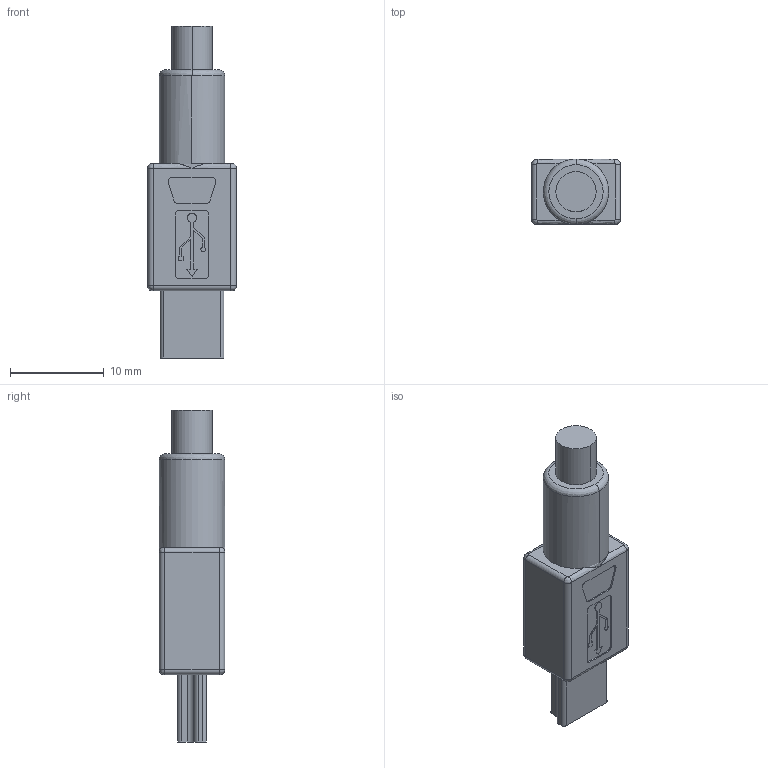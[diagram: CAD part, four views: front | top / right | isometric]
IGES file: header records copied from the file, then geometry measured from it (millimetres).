
Start section:  PTC IGES file: plug-mini-usb_prt.igs
Global section: file name: plug-mini-usb_prt.igs; native system: Pro/ENGINEER by Parametric Technology Corporation; preprocessor: 2006170; author: GRA; organization: Unknown; date: 20080630.105207; units: millimetre
Bounding box: 9.5 x 7 x 35.5 mm (x, y, z)
Surface area: 1085 mm2 (no closed solid volume)
Topology: 0 solids, 0 shells, 113 faces, 590 edges, 590 vertices
Faces by surface type: bspline 59, revolution 54
